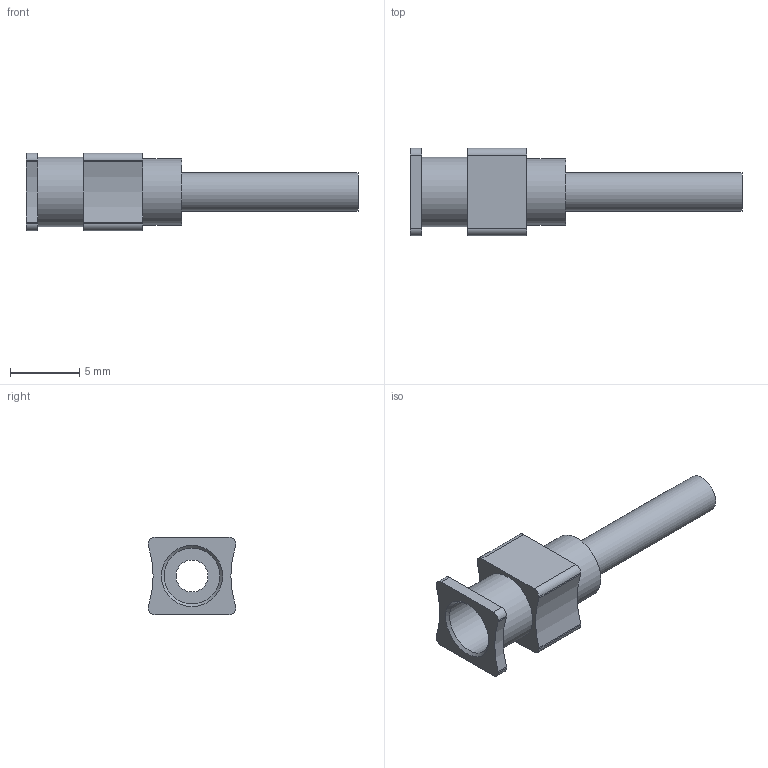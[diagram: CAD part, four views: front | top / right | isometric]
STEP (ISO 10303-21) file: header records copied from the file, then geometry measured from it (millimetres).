
FILE_DESCRIPTION (( 'STEP AP214' ), '1' );
FILE_NAME ('DAV SS 12 05.STEP', '2022-04-14T11:18:11', ( '' ), ( '' ), 'SwSTEP 2.0', 'SolidWorks 2021', '' );
FILE_SCHEMA (( 'AUTOMOTIVE_DESIGN' ));
Length unit declared in the file: millimetre
Products named in the file (1): DAV SS 12 05
Bounding box: 23.9 x 6.3 x 5.6 mm (x, y, z)
Volume: 201.9 mm3; surface area: 617.7 mm2
Topology: 1 solids, 1 shells, 37 faces, 91 edges, 61 vertices
Faces by surface type: plane 19, cylinder 17, cone 1
Full cylindrical faces by diameter (mm): 2.3 x1, 2.8 x1, 4 x1, 4.8 x1, 5 x1
Entity records: 1098 total; most frequent: DIRECTION 194, CARTESIAN_POINT 180, ORIENTED_EDGE 166, EDGE_CURVE 83, AXIS2_PLACEMENT_3D 73, VERTEX_POINT 59, EDGE_LOOP 50, LINE 48
